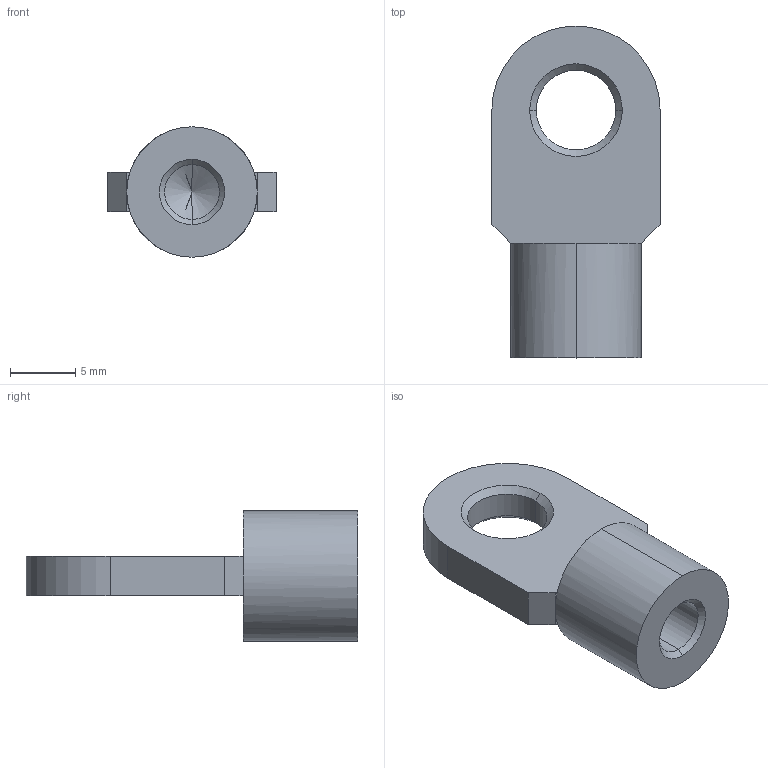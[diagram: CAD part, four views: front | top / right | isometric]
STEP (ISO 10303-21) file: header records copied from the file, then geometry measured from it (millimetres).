
FILE_DESCRIPTION (( 'STEP AP214' ), '1' );
FILE_NAME ('18.05E1L19.STEP', '2017-11-13T10:16:23', ( '' ), ( '' ), 'SwSTEP 2.0', 'SolidWorks 2016', '' );
FILE_SCHEMA (( 'AUTOMOTIVE_DESIGN' ));
Length unit declared in the file: millimetre
Products named in the file (1): 18.05E1L19
Bounding box: 12.9 x 25.45 x 10 mm (x, y, z)
Volume: 1065.1 mm3; surface area: 1013.1 mm2
Topology: 1 solids, 1 shells, 28 faces, 64 edges, 37 vertices
Faces by surface type: plane 13, cone 8, cylinder 7
Entity records: 806 total; most frequent: DIRECTION 146, CARTESIAN_POINT 128, ORIENTED_EDGE 124, EDGE_CURVE 62, AXIS2_PLACEMENT_3D 55, VERTEX_POINT 37, VECTOR 36, LINE 36
